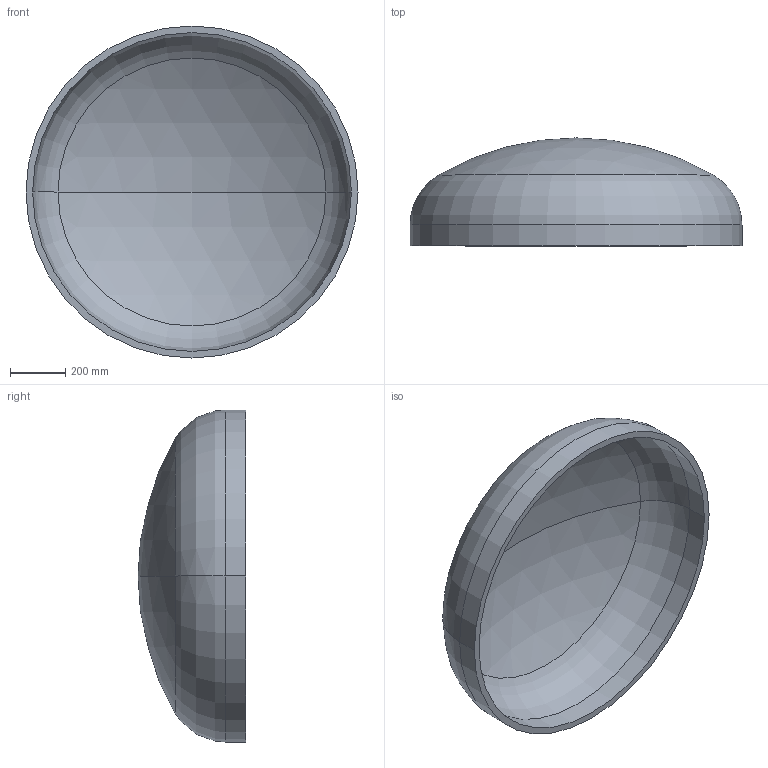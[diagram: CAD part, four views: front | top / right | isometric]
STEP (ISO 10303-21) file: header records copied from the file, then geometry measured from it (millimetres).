
FILE_DESCRIPTION (( 'STEP AP203' ), '1' );
FILE_NAME ('DIN 28013 Korbbogenform_-_Boden DIN 28013 - 1200 x 75 - I - s=24.step', '2016-07-01T09:24:09', ( '' ), ( '' ), 'SwSTEP 2.0', 'SolidWorks 2013', '' );
FILE_SCHEMA (( 'CONFIG_CONTROL_DESIGN' ));
Length unit declared in the file: millimetre
Products named in the file (1): DIN 28013 Korbbogenform_-_Boden DIN 28013 - 1200 x 75 - I - s=24
Bounding box: 1200 x 389.86 x 1200 mm (x, y, z)
Volume: 43274239.2 mm3; surface area: 3696060.1 mm2
Topology: 1 solids, 1 shells, 13 faces, 24 edges, 14 vertices
Faces by surface type: torus 4, cylinder 4, sphere 4, plane 1
Entity records: 407 total; most frequent: DIRECTION 72, CARTESIAN_POINT 52, ORIENTED_EDGE 48, AXIS2_PLACEMENT_3D 34, EDGE_CURVE 24, CIRCLE 20, EDGE_LOOP 14, VERTEX_POINT 14
